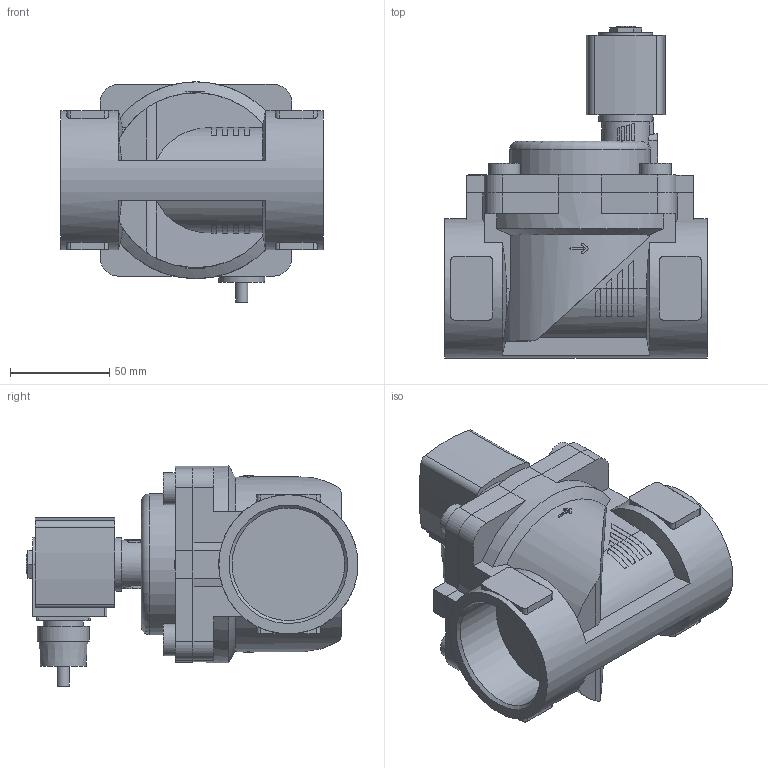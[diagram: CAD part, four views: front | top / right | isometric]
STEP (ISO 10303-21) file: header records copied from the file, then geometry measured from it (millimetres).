
FILE_DESCRIPTION(/* description */ ('STEP AP214'),/* implementation_level */ '2;1');
FILE_NAME(/* name */ '6281-379378-2_2-Way_Solenoid_Valve__Servo-assisted__General_Purpose',/* time_stamp */ '2024-09-06T10:12:58+02:00',/* author */ ('License CC BY-ND 4.0'),/* organization */ ('CADENAS'),/* preprocessor_version */ 'ST-DEVELOPER v19.3',/* originating_system */ 'PARTsolutions',/* authorisation */ ' ');
FILE_SCHEMA (('AUTOMOTIVE_DESIGN {1 0 10303 214 3 1 1}'));
Length unit declared in the file: millimetre
Products named in the file (4): 6281-379378-2/2-Way Solenoid Valve, Servo-assisted, General Purpose; 5281ev400VA2/2-Wege-Magnetventil mit Servomembran-Deckel 99 ; 6213-40G2VA-Gehaeuse-; AC10ex-6ATEXKabelPlan-Coil
Assembly tree (3 placements, depth 2):
  6281-379378-2/2-Way Solenoid Valve, Servo-assisted, General Purpose
    5281ev400VA2/2-Wege-Magnetventil mit Servomembran-Deckel 99 
    6213-40G2VA-Gehaeuse-
    AC10ex-6ATEXKabelPlan-Coil
Bounding box: 132 x 167 x 110.8 mm (x, y, z)
Volume: 782410.7 mm3; surface area: 106607.2 mm2
Topology: 3 solids, 3 shells, 316 faces, 837 edges, 553 vertices
Faces by surface type: plane 201, cylinder 99, cone 15, torus 1
Full cylindrical faces by diameter (mm): 6.2 x1, 9.74 x1, 16 x4, 20 x1, 26 x1, 27 x1, 56.656 x2, 70 x1
Entity records: 10800 total; most frequent: CARTESIAN_POINT 1948, DIRECTION 1624, ORIENTED_EDGE 1622, EDGE_CURVE 811, AXIS2_PLACEMENT_3D 566, VERTEX_POINT 545, LINE 492, VECTOR 492
